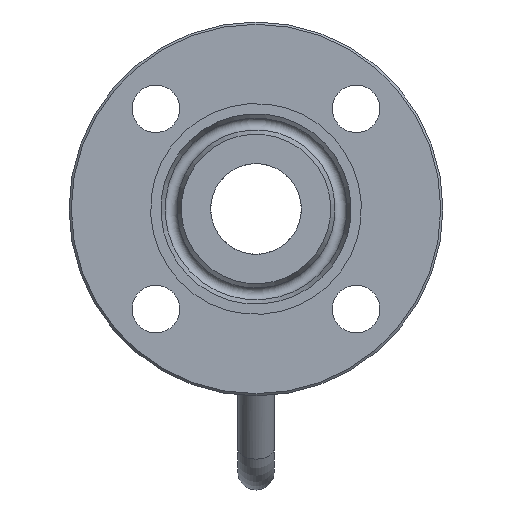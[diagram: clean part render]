
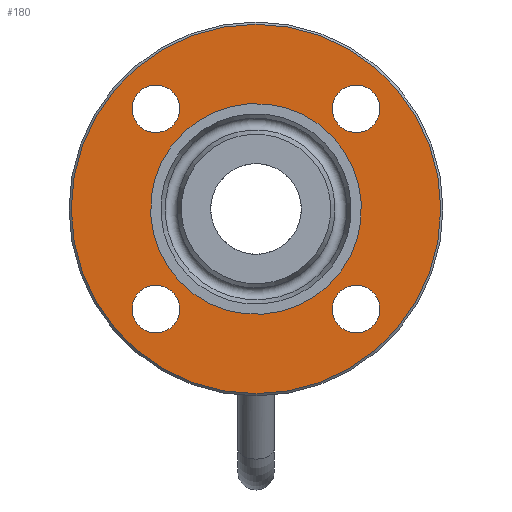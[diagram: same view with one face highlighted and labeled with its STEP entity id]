
A CAD part, left-side view. The second image highlights one B-rep face of the part: STEP entity #180.
In plain terms, the highlighted planar face has unit normal (-1, 0, 0).
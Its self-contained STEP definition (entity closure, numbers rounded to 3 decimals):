
#180=ADVANCED_FACE('',(#1487,#1489,#1491,#1493,#1495,#1497),#1499,.T.);
#1487=FACE_BOUND('',#1488,.T.);
#1488=EDGE_LOOP('',(#2355));
#1489=FACE_BOUND('',#1490,.T.);
#1490=EDGE_LOOP('',(#2356));
#1491=FACE_BOUND('',#1492,.T.);
#1492=EDGE_LOOP('',(#2357));
#1493=FACE_BOUND('',#1494,.T.);
#1494=EDGE_LOOP('',(#2358));
#1495=FACE_BOUND('',#1496,.T.);
#1496=EDGE_LOOP('',(#2359));
#1497=FACE_OUTER_BOUND('',#1498,.T.);
#1498=EDGE_LOOP('',(#2360));
#1499=PLANE('',#1500);
#1500=AXIS2_PLACEMENT_3D('',#1501,#1502,#1503);
#1501=CARTESIAN_POINT('',(-116.5,0.,0.));
#1502=DIRECTION('',(-1.,0.,0.));
#1503=DIRECTION('',(0.,1.,0.));
#2355=ORIENTED_EDGE('',*,*,#3321,.T.);
#2356=ORIENTED_EDGE('',*,*,#3322,.T.);
#2357=ORIENTED_EDGE('',*,*,#3324,.T.);
#2358=ORIENTED_EDGE('',*,*,#3326,.T.);
#2359=ORIENTED_EDGE('',*,*,#3346,.T.);
#2360=ORIENTED_EDGE('',*,*,#3350,.T.);
#3321=EDGE_CURVE('',#3692,#3692,#3694,.T.);
#3322=EDGE_CURVE('',#3695,#3695,#3696,.T.);
#3324=EDGE_CURVE('',#3698,#3698,#3699,.T.);
#3326=EDGE_CURVE('',#3701,#3701,#3702,.T.);
#3346=EDGE_CURVE('',#3733,#3733,#3735,.T.);
#3350=EDGE_CURVE('',#3741,#3741,#3742,.T.);
#3692=VERTEX_POINT('',#5257);
#3694=CIRCLE('',#5261,10.5);
#3695=VERTEX_POINT('',#5265);
#3696=CIRCLE('',#5266,10.5);
#3698=VERTEX_POINT('',#5273);
#3699=CIRCLE('',#5274,10.5);
#3701=VERTEX_POINT('',#5281);
#3702=CIRCLE('',#5282,10.5);
#3733=VERTEX_POINT('',#5476);
#3735=CIRCLE('',#5480,46.5);
#3741=VERTEX_POINT('',#5497);
#3742=CIRCLE('',#5498,81.5);
#5257=CARTESIAN_POINT('',(-116.5,-44.194,54.694));
#5261=AXIS2_PLACEMENT_3D('',#5262,#5263,#5264);
#5262=CARTESIAN_POINT('',(-116.5,-44.194,44.194));
#5263=DIRECTION('',(1.,-0.,0.));
#5264=DIRECTION('',(0.,0.,1.));
#5265=CARTESIAN_POINT('',(-116.5,-54.694,-44.194));
#5266=AXIS2_PLACEMENT_3D('',#5267,#5268,#5269);
#5267=CARTESIAN_POINT('',(-116.5,-44.194,-44.194));
#5268=DIRECTION('',(1.,-0.,0.));
#5269=DIRECTION('',(0.,-1.,-0.));
#5273=CARTESIAN_POINT('',(-116.5,44.194,-54.694));
#5274=AXIS2_PLACEMENT_3D('',#5275,#5276,#5277);
#5275=CARTESIAN_POINT('',(-116.5,44.194,-44.194));
#5276=DIRECTION('',(1.,-0.,0.));
#5277=DIRECTION('',(0.,0.,-1.));
#5281=CARTESIAN_POINT('',(-116.5,54.694,44.194));
#5282=AXIS2_PLACEMENT_3D('',#5283,#5284,#5285);
#5283=CARTESIAN_POINT('',(-116.5,44.194,44.194));
#5284=DIRECTION('',(1.,-0.,0.));
#5285=DIRECTION('',(0.,1.,0.));
#5476=CARTESIAN_POINT('',(-116.5,4.899,-46.241));
#5480=AXIS2_PLACEMENT_3D('',#5481,#5482,#5483);
#5481=CARTESIAN_POINT('',(-116.5,0.,0.));
#5482=DIRECTION('',(1.,-0.,0.));
#5483=DIRECTION('',(0.,0.105,-0.994));
#5497=CARTESIAN_POINT('',(-116.5,81.5,0.));
#5498=AXIS2_PLACEMENT_3D('',#5499,#5500,#5501);
#5499=CARTESIAN_POINT('',(-116.5,0.,0.));
#5500=DIRECTION('',(-1.,0.,0.));
#5501=DIRECTION('',(0.,1.,0.));
